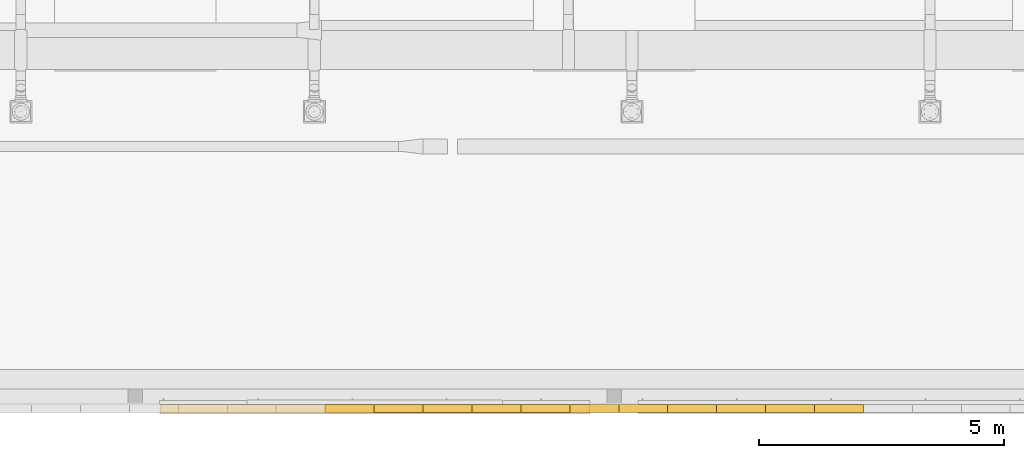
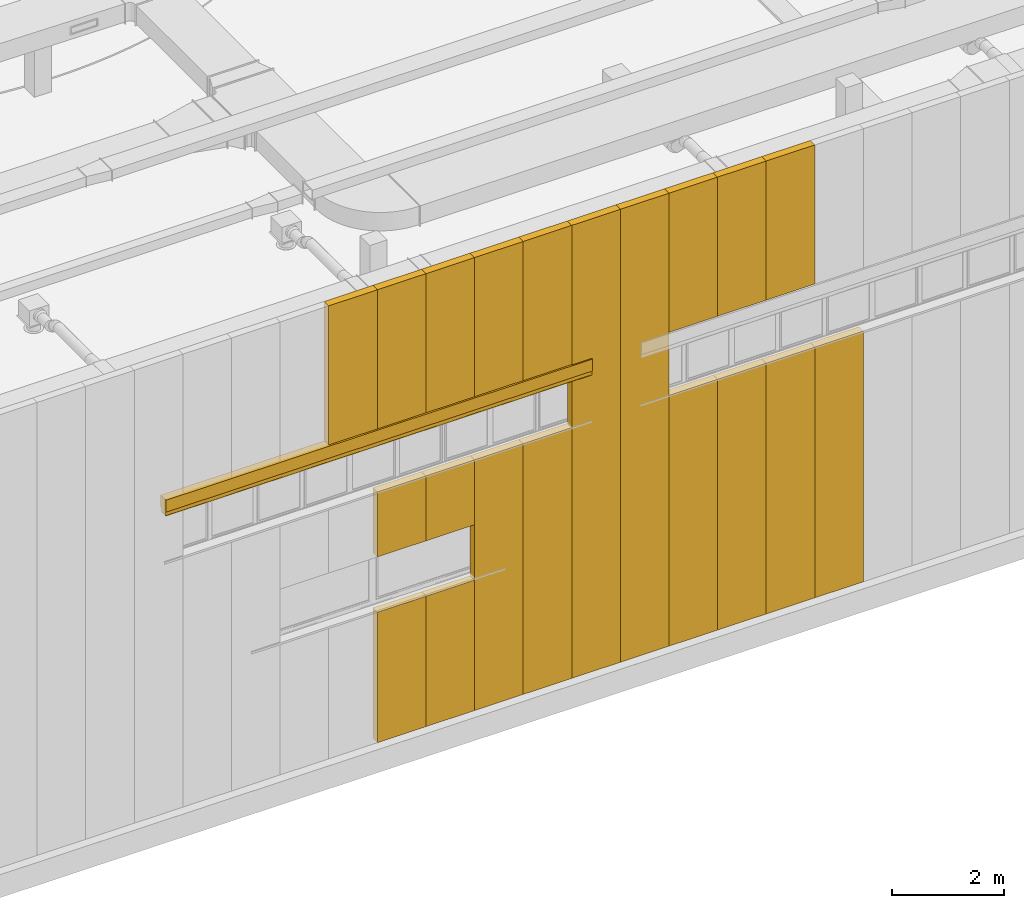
# One storey, part 217 of 302: 20 curtain walls, 1 window, 1 element without a shape of its own.
"""IFC2X3 building model written with IfcOpenShell, lengths in metres."""

from ifc_helpers import new_model, entity, si_unit, converted_unit, derived_unit, direction, frame, frame_2d, origin, origin_2d_with_axis, place, context, subcontext, project, spatial, polyline, circle_curve, parameter, trimmed, segment, composite_curve, rectangle, outline, extrude, source, transform, mapped, material, material_list, layer, layer_set, layer_usage, type_object, type_shapes, element, aggregate, save


model = new_model("IFC2X3")

# Units and contexts
model_context = context("Model", 3, precision=1e-05, world=origin(), true_north=direction((6.12303176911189e-17, 1.0)))
body_context = subcontext(model_context, "Body", "Model", "MODEL_VIEW")
ifc_project = project(units=[si_unit("LENGTHUNIT", "METRE"), si_unit("AREAUNIT", "SQUARE_METRE"), si_unit("VOLUMEUNIT", "CUBIC_METRE"), converted_unit("PLANEANGLEUNIT", "DEGREE", entity("IfcRatioMeasure", 0.0174532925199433), si_unit("PLANEANGLEUNIT", "RADIAN"), dimensions=[0, 0, 0, 0, 0, 0, 0]), si_unit("MASSUNIT", "GRAM", prefix="KILO"), derived_unit("MASSDENSITYUNIT", [(si_unit("MASSUNIT", "GRAM", prefix="KILO"), 1), (si_unit("LENGTHUNIT", "METRE"), -3)]), derived_unit("MOMENTOFINERTIAUNIT", [(si_unit("LENGTHUNIT", "METRE"), 4)]), si_unit("TIMEUNIT", "SECOND"), si_unit("FREQUENCYUNIT", "HERTZ"), si_unit("THERMODYNAMICTEMPERATUREUNIT", "DEGREE_CELSIUS"), derived_unit("THERMALTRANSMITTANCEUNIT", [(si_unit("MASSUNIT", "GRAM", prefix="KILO"), 1), (si_unit("THERMODYNAMICTEMPERATUREUNIT", "KELVIN"), -1), (si_unit("TIMEUNIT", "SECOND"), -3)]), derived_unit("VOLUMETRICFLOWRATEUNIT", [(si_unit("LENGTHUNIT", "METRE"), 3), (si_unit("TIMEUNIT", "SECOND"), -1)]), si_unit("ELECTRICCURRENTUNIT", "AMPERE"), si_unit("ELECTRICVOLTAGEUNIT", "VOLT"), si_unit("POWERUNIT", "WATT"), si_unit("FORCEUNIT", "NEWTON", prefix="KILO"), si_unit("ILLUMINANCEUNIT", "LUX"), si_unit("LUMINOUSFLUXUNIT", "LUMEN"), si_unit("LUMINOUSINTENSITYUNIT", "CANDELA"), derived_unit("USERDEFINED", [(si_unit("MASSUNIT", "GRAM", prefix="KILO"), -1), (si_unit("LENGTHUNIT", "METRE"), -2), (si_unit("TIMEUNIT", "SECOND"), 3), (si_unit("LUMINOUSFLUXUNIT", "LUMEN"), 1)]), derived_unit("LINEARVELOCITYUNIT", [(si_unit("LENGTHUNIT", "METRE"), 1), (si_unit("TIMEUNIT", "SECOND"), -1)]), si_unit("PRESSUREUNIT", "PASCAL"), derived_unit("USERDEFINED", [(si_unit("LENGTHUNIT", "METRE"), -2), (si_unit("MASSUNIT", "GRAM", prefix="KILO"), 1), (si_unit("TIMEUNIT", "SECOND"), -2)]), derived_unit("LINEARFORCEUNIT", [(si_unit("MASSUNIT", "GRAM", prefix="KILO"), 1), (si_unit("LENGTHUNIT", "METRE"), 1), (si_unit("TIMEUNIT", "SECOND"), -2), (si_unit("LENGTHUNIT", "METRE"), -1)]), derived_unit("PLANARFORCEUNIT", [(si_unit("MASSUNIT", "GRAM", prefix="KILO"), 1), (si_unit("LENGTHUNIT", "METRE"), 1), (si_unit("TIMEUNIT", "SECOND"), -2), (si_unit("LENGTHUNIT", "METRE"), -2)])], contexts=[model_context])

# Site, building, storey
site_placement = place(None, origin())
site = spatial("IfcSite", under=ifc_project, at=site_placement, Name="Default", CompositionType="ELEMENT")
building_placement = place(site_placement, origin())
building = spatial("IfcBuilding", under=site, at=building_placement, CompositionType="ELEMENT")
storey_placement = place(building_placement, frame((0.0, 0.0, -1.3)))
storey = spatial("IfcBuildingStorey", under=building, at=storey_placement, Name="00_EG", CompositionType="ELEMENT", Elevation=-1.3)

# Curtain walls
curtain_wall_type_1 = type_object("IfcCurtainWallType", Name="Fassade:Sandwichpaneele 16cm", PredefinedType="NOTDEFINED")
curtain_wall_1_placement = place(storey_placement, frame((0.0, 0.0, 1.3)))
curtain_wall_1 = element("IfcCurtainWall", 1, at=curtain_wall_1_placement, inside=storey, type_object=curtain_wall_type_1, Name="Fassade:Sandwichpaneele 16cm", ObjectType="Fassade:Sandwichpaneele 16cm")
ifc_material_1 = material(Name="Prepainted_Steel-ArcelorMittal_Construction_HAIRULTRA-35-CORAL-4309-[RAL_3000]")
ifc_layer_1 = layer(ifc_material_1, 0.015)
ifc_material_2 = material(Name="ArcelorMittal-MineralWool")
ifc_layer_2 = layer(ifc_material_2, 0.13)
ifc_material_3 = material(Name="Prepainted_Steel-ArcelorMittal_Construction_INTÉRIEUR-12-WHITE-912")
ifc_layer_3 = layer(ifc_material_3, 0.015)
ifc_layer_set = layer_set([ifc_layer_1, ifc_layer_2, ifc_layer_3], Name="Fassade:Sandwichpaneele 16cm")
ifc_layer_usage_1 = layer_usage(ifc_layer_set, "AXIS2", "POSITIVE", -0.08)
curtain_wall_type_2 = type_object("IfcCurtainWallType", Name="Basiswand:Sandwichpaneele d = 16cm aussen", PredefinedType="NOTDEFINED", material=ifc_layer_set)
curtain_wall_2_placement = place(storey_placement, frame((-251.840111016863, 14.898088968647, 1.27)))
curtain_wall_2 = element("IfcCurtainWall", 2, at=curtain_wall_2_placement, type_object=curtain_wall_type_2, material=ifc_layer_usage_1, Name="Basiswand:Sandwichpaneele d = 16cm aussen", ObjectType="Basiswand:Sandwichpaneele d = 16cm aussen", context=body_context, shape_type="SweptSolid", body=[
    extrude(rectangle(XDim=1.00000000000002, YDim=0.159999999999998, at=frame_2d((0.500000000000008, 0.0), x_axis=(-1.0, 0.0))), origin(), (0.0, 0.0, 1.0), 2.83599999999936),
])
ifc_layer_usage_2 = layer_usage(ifc_layer_set, "AXIS2", "POSITIVE", -0.08)
curtain_wall_3_placement = place(storey_placement, frame((-250.840111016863, 14.898088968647, 1.27)))
curtain_wall_3 = element("IfcCurtainWall", 3, at=curtain_wall_3_placement, type_object=curtain_wall_type_2, material=ifc_layer_usage_2, Name="Basiswand:Sandwichpaneele d = 16cm aussen", ObjectType="Basiswand:Sandwichpaneele d = 16cm aussen", context=body_context, shape_type="SweptSolid", body=[
    extrude(rectangle(XDim=0.999999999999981, YDim=0.159999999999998, at=frame_2d((0.49999999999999, 0.0), x_axis=(-1.0, 0.0))), origin(), (0.0, 0.0, 1.0), 2.83599999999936),
])
ifc_layer_usage_3 = layer_usage(ifc_layer_set, "AXIS2", "POSITIVE", -0.08)
curtain_wall_4_placement = place(storey_placement, frame((-248.840111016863, 14.898088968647, 1.27)))
curtain_wall_4 = element("IfcCurtainWall", 4, at=curtain_wall_4_placement, type_object=curtain_wall_type_2, material=ifc_layer_usage_3, Name="Basiswand:Sandwichpaneele d = 16cm aussen", ObjectType="Basiswand:Sandwichpaneele d = 16cm aussen", context=body_context, shape_type="SweptSolid", body=[
    extrude(rectangle(XDim=0.999999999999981, YDim=0.159999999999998, at=frame_2d((0.49999999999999, 0.0), x_axis=(-1.0, 0.0))), origin(), (0.0, 0.0, 1.0), 5.44999999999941),
])
ifc_layer_usage_4 = layer_usage(ifc_layer_set, "AXIS2", "POSITIVE", -0.08)
curtain_wall_5_placement = place(storey_placement, frame((-246.840111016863, 14.898088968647, 1.27)))
curtain_wall_5 = element("IfcCurtainWall", 5, at=curtain_wall_5_placement, type_object=curtain_wall_type_2, material=ifc_layer_usage_4, Name="Basiswand:Sandwichpaneele d = 16cm aussen", ObjectType="Basiswand:Sandwichpaneele d = 16cm aussen", context=body_context, shape_type="SweptSolid", body=[
    extrude(rectangle(XDim=0.999999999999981, YDim=0.159999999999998, at=frame_2d((0.49999999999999, 0.0), x_axis=(-1.0, 0.0))), origin(), (0.0, 0.0, 1.0), 9.8509),
])
ifc_layer_usage_5 = layer_usage(ifc_layer_set, "AXIS2", "POSITIVE", -0.08)
curtain_wall_6_placement = place(storey_placement, frame((-245.840111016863, 14.898088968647, 1.27)))
curtain_wall_6 = element("IfcCurtainWall", 6, at=curtain_wall_6_placement, type_object=curtain_wall_type_2, material=ifc_layer_usage_5, Name="Basiswand:Sandwichpaneele d = 16cm aussen", ObjectType="Basiswand:Sandwichpaneele d = 16cm aussen", context=body_context, shape_type="SweptSolid", body=[
    extrude(rectangle(XDim=1.00000000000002, YDim=0.159999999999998, at=frame_2d((0.500000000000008, 0.0), x_axis=(-1.0, 0.0))), origin(), (0.0, 0.0, 1.0), 5.44999999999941),
])
ifc_layer_usage_6 = layer_usage(ifc_layer_set, "AXIS2", "POSITIVE", -0.08)
curtain_wall_7_placement = place(storey_placement, frame((-244.840111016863, 14.898088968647, 1.27)))
curtain_wall_7 = element("IfcCurtainWall", 7, at=curtain_wall_7_placement, type_object=curtain_wall_type_2, material=ifc_layer_usage_6, Name="Basiswand:Sandwichpaneele d = 16cm aussen", ObjectType="Basiswand:Sandwichpaneele d = 16cm aussen", context=body_context, shape_type="SweptSolid", body=[
    extrude(rectangle(XDim=0.999999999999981, YDim=0.159999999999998, at=frame_2d((0.49999999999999, 0.0), x_axis=(-1.0, 0.0))), origin(), (0.0, 0.0, 1.0), 5.44999999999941),
])
ifc_layer_usage_7 = layer_usage(ifc_layer_set, "AXIS2", "POSITIVE", -0.08)
curtain_wall_8_placement = place(storey_placement, frame((-243.840111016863, 14.898088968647, 1.27)))
curtain_wall_8 = element("IfcCurtainWall", 8, at=curtain_wall_8_placement, type_object=curtain_wall_type_2, material=ifc_layer_usage_7, Name="Basiswand:Sandwichpaneele d = 16cm aussen", ObjectType="Basiswand:Sandwichpaneele d = 16cm aussen", context=body_context, shape_type="SweptSolid", body=[
    extrude(rectangle(XDim=1.00000000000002, YDim=0.159999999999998, at=frame_2d((0.500000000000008, 0.0), x_axis=(-1.0, 0.0))), origin(), (0.0, 0.0, 1.0), 5.44999999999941),
])
ifc_layer_usage_8 = layer_usage(ifc_layer_set, "AXIS2", "POSITIVE", -0.08)
curtain_wall_9_placement = place(storey_placement, frame((-242.840111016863, 14.898088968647, 1.27)))
curtain_wall_9 = element("IfcCurtainWall", 9, at=curtain_wall_9_placement, type_object=curtain_wall_type_2, material=ifc_layer_usage_8, Name="Basiswand:Sandwichpaneele d = 16cm aussen", ObjectType="Basiswand:Sandwichpaneele d = 16cm aussen", context=body_context, shape_type="SweptSolid", body=[
    extrude(rectangle(XDim=0.999999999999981, YDim=0.159999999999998, at=frame_2d((0.49999999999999, 0.0), x_axis=(-1.0, 0.0))), origin(), (0.0, 0.0, 1.0), 5.44999999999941),
])
ifc_layer_usage_9 = layer_usage(ifc_layer_set, "AXIS2", "POSITIVE", -0.08)
curtain_wall_10_placement = place(storey_placement, frame((-251.840111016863, 14.898088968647, 5.31000000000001)))
curtain_wall_10 = element("IfcCurtainWall", 10, at=curtain_wall_10_placement, type_object=curtain_wall_type_2, material=ifc_layer_usage_9, Name="Basiswand:Sandwichpaneele d = 16cm aussen", ObjectType="Basiswand:Sandwichpaneele d = 16cm aussen", context=body_context, shape_type="SweptSolid", body=[
    extrude(rectangle(XDim=1.00000000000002, YDim=0.159999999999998, at=frame_2d((0.500000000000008, 0.0), x_axis=(-1.0, 0.0))), origin(), (0.0, 0.0, 1.0), 1.40999999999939),
])
ifc_layer_usage_10 = layer_usage(ifc_layer_set, "AXIS2", "POSITIVE", -0.08)
curtain_wall_11_placement = place(storey_placement, frame((-250.840111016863, 14.898088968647, 5.31000000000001)))
curtain_wall_11 = element("IfcCurtainWall", 11, at=curtain_wall_11_placement, type_object=curtain_wall_type_2, material=ifc_layer_usage_10, Name="Basiswand:Sandwichpaneele d = 16cm aussen", ObjectType="Basiswand:Sandwichpaneele d = 16cm aussen", context=body_context, shape_type="SweptSolid", body=[
    extrude(rectangle(XDim=0.999999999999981, YDim=0.159999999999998, at=frame_2d((0.49999999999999, 0.0), x_axis=(-1.0, 0.0))), origin(), (0.0, 0.0, 1.0), 1.40999999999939),
])
ifc_layer_usage_11 = layer_usage(ifc_layer_set, "AXIS2", "POSITIVE", -0.08)
curtain_wall_12_placement = place(storey_placement, frame((-249.840111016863, 14.898088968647, 1.27)))
curtain_wall_12 = element("IfcCurtainWall", 12, at=curtain_wall_12_placement, type_object=curtain_wall_type_2, material=ifc_layer_usage_11, Name="Basiswand:Sandwichpaneele d = 16cm aussen", ObjectType="Basiswand:Sandwichpaneele d = 16cm aussen", context=body_context, shape_type="SweptSolid", body=[
    extrude(rectangle(XDim=1.00000000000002, YDim=0.159999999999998, at=frame_2d((0.500000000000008, 0.0), x_axis=(-1.0, 0.0))), origin(), (0.0, 0.0, 1.0), 5.44999999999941),
])
ifc_layer_usage_12 = layer_usage(ifc_layer_set, "AXIS2", "POSITIVE", -0.08)
curtain_wall_13_placement = place(storey_placement, frame((-252.840111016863, 14.898088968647, 8.09499999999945)))
curtain_wall_13 = element("IfcCurtainWall", 13, at=curtain_wall_13_placement, type_object=curtain_wall_type_2, material=ifc_layer_usage_12, Name="Basiswand:Sandwichpaneele d = 16cm aussen", ObjectType="Basiswand:Sandwichpaneele d = 16cm aussen", context=body_context, shape_type="SweptSolid", body=[
    extrude(rectangle(XDim=0.999999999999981, YDim=0.159999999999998, at=frame_2d((0.49999999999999, 0.0), x_axis=(-1.0, 0.0))), origin(), (0.0, 0.0, 1.0), 3.02590000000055),
])
ifc_layer_usage_13 = layer_usage(ifc_layer_set, "AXIS2", "POSITIVE", -0.08)
curtain_wall_14_placement = place(storey_placement, frame((-251.840111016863, 14.898088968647, 8.09499999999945)))
curtain_wall_14 = element("IfcCurtainWall", 14, at=curtain_wall_14_placement, type_object=curtain_wall_type_2, material=ifc_layer_usage_13, Name="Basiswand:Sandwichpaneele d = 16cm aussen", ObjectType="Basiswand:Sandwichpaneele d = 16cm aussen", context=body_context, shape_type="SweptSolid", body=[
    extrude(rectangle(XDim=1.00000000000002, YDim=0.159999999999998, at=frame_2d((0.500000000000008, 0.0), x_axis=(-1.0, 0.0))), origin(), (0.0, 0.0, 1.0), 3.02590000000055),
])
ifc_layer_usage_14 = layer_usage(ifc_layer_set, "AXIS2", "POSITIVE", -0.08)
curtain_wall_15_placement = place(storey_placement, frame((-250.840111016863, 14.898088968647, 8.09499999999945)))
curtain_wall_15 = element("IfcCurtainWall", 15, at=curtain_wall_15_placement, type_object=curtain_wall_type_2, material=ifc_layer_usage_14, Name="Basiswand:Sandwichpaneele d = 16cm aussen", ObjectType="Basiswand:Sandwichpaneele d = 16cm aussen", context=body_context, shape_type="SweptSolid", body=[
    extrude(rectangle(XDim=0.999999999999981, YDim=0.159999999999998, at=frame_2d((0.49999999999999, 0.0), x_axis=(-1.0, 0.0))), origin(), (0.0, 0.0, 1.0), 3.02590000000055),
])
ifc_layer_usage_15 = layer_usage(ifc_layer_set, "AXIS2", "POSITIVE", -0.08)
curtain_wall_16_placement = place(storey_placement, frame((-249.840111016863, 14.898088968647, 8.09499999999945)))
curtain_wall_16 = element("IfcCurtainWall", 16, at=curtain_wall_16_placement, type_object=curtain_wall_type_2, material=ifc_layer_usage_15, Name="Basiswand:Sandwichpaneele d = 16cm aussen", ObjectType="Basiswand:Sandwichpaneele d = 16cm aussen", context=body_context, shape_type="SweptSolid", body=[
    extrude(rectangle(XDim=1.00000000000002, YDim=0.159999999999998, at=frame_2d((0.500000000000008, 0.0), x_axis=(-1.0, 0.0))), origin(), (0.0, 0.0, 1.0), 3.02590000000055),
])
ifc_layer_usage_16 = layer_usage(ifc_layer_set, "AXIS2", "POSITIVE", -0.08)
curtain_wall_17_placement = place(storey_placement, frame((-248.840111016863, 14.898088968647, 8.09499999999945)))
curtain_wall_17 = element("IfcCurtainWall", 17, at=curtain_wall_17_placement, type_object=curtain_wall_type_2, material=ifc_layer_usage_16, Name="Basiswand:Sandwichpaneele d = 16cm aussen", ObjectType="Basiswand:Sandwichpaneele d = 16cm aussen", context=body_context, shape_type="SweptSolid", body=[
    extrude(rectangle(XDim=0.999999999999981, YDim=0.159999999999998, at=frame_2d((0.49999999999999, 0.0), x_axis=(-1.0, 0.0))), origin(), (0.0, 0.0, 1.0), 3.02590000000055),
])
ifc_layer_usage_17 = layer_usage(ifc_layer_set, "AXIS2", "POSITIVE", -0.08)
curtain_wall_18_placement = place(storey_placement, frame((-247.840111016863, 14.898088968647, 1.27)))
curtain_wall_18 = element("IfcCurtainWall", 18, at=curtain_wall_18_placement, type_object=curtain_wall_type_2, material=ifc_layer_usage_17, Name="Basiswand:Sandwichpaneele d = 16cm aussen", ObjectType="Basiswand:Sandwichpaneele d = 16cm aussen", context=body_context, shape_type="SweptSolid", body=[
    extrude(rectangle(XDim=1.00000000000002, YDim=0.159999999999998, at=frame_2d((0.500000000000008, 0.0), x_axis=(-1.0, 0.0))), origin(), (0.0, 0.0, 1.0), 9.8509),
])
ifc_layer_usage_18 = layer_usage(ifc_layer_set, "AXIS2", "POSITIVE", -0.08)
curtain_wall_19_placement = place(storey_placement, frame((-245.840111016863, 14.898088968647, 8.09499999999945)))
curtain_wall_19 = element("IfcCurtainWall", 19, at=curtain_wall_19_placement, type_object=curtain_wall_type_2, material=ifc_layer_usage_18, Name="Basiswand:Sandwichpaneele d = 16cm aussen", ObjectType="Basiswand:Sandwichpaneele d = 16cm aussen", context=body_context, shape_type="SweptSolid", body=[
    extrude(rectangle(XDim=1.00000000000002, YDim=0.159999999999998, at=frame_2d((0.500000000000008, 0.0), x_axis=(-1.0, 0.0))), origin(), (0.0, 0.0, 1.0), 3.02590000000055),
])
ifc_layer_usage_19 = layer_usage(ifc_layer_set, "AXIS2", "POSITIVE", -0.08)
curtain_wall_20_placement = place(storey_placement, frame((-244.840111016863, 14.898088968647, 8.09499999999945)))
curtain_wall_20 = element("IfcCurtainWall", 20, at=curtain_wall_20_placement, type_object=curtain_wall_type_2, material=ifc_layer_usage_19, Name="Basiswand:Sandwichpaneele d = 16cm aussen", ObjectType="Basiswand:Sandwichpaneele d = 16cm aussen", context=body_context, shape_type="SweptSolid", body=[
    extrude(rectangle(XDim=0.999999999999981, YDim=0.159999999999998, at=frame_2d((0.49999999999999, 0.0), x_axis=(-1.0, 0.0))), origin(), (0.0, 0.0, 1.0), 3.02590000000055),
])
ifc_layer_usage_20 = layer_usage(ifc_layer_set, "AXIS2", "POSITIVE", -0.08)
curtain_wall_21_placement = place(storey_placement, frame((-243.840111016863, 14.898088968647, 8.09499999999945)))
curtain_wall_21 = element("IfcCurtainWall", 21, at=curtain_wall_21_placement, type_object=curtain_wall_type_2, material=ifc_layer_usage_20, Name="Basiswand:Sandwichpaneele d = 16cm aussen", ObjectType="Basiswand:Sandwichpaneele d = 16cm aussen", context=body_context, shape_type="SweptSolid", body=[
    extrude(rectangle(XDim=1.00000000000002, YDim=0.159999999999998, at=frame_2d((0.500000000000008, 0.0), x_axis=(-1.0, 0.0))), origin(), (0.0, 0.0, 1.0), 3.02590000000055),
])
aggregate(curtain_wall_1, [curtain_wall_2, curtain_wall_3, curtain_wall_4, curtain_wall_5, curtain_wall_6, curtain_wall_7, curtain_wall_8, curtain_wall_9, curtain_wall_10, curtain_wall_11, curtain_wall_12, curtain_wall_13, curtain_wall_14, curtain_wall_15, curtain_wall_16, curtain_wall_17, curtain_wall_18, curtain_wall_19, curtain_wall_20, curtain_wall_21])

# Window
ifc_material_4 = material(Name="Metall - Edelstahl satiniert")
ifc_material_5 = material(Name="Metall - Raffstore vertikale Stellung")
ifc_material_6 = material(Name="<Unnamed>")
ifc_material_list_1 = material_list([ifc_material_4, ifc_material_5, ifc_material_6])
ifc_material_list_2 = material_list([ifc_material_4, ifc_material_4, ifc_material_5, ifc_material_6, ifc_material_5, ifc_material_5, ifc_material_4])
window_style = type_object("IfcWindowStyle", Name="Blende Raffstore:Raffstore geschlossen, Stellung senkrecht", ConstructionType="NOTDEFINED", OperationType="NOTDEFINED", ParameterTakesPrecedence=False, Sizeable=False, material=ifc_material_list_2)
shared_shape = source(origin(), body_context, "Body", "SweptSolid", [
    extrude(rectangle(XDim=0.00500000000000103, YDim=0.189999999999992, at=origin_2d_with_axis()), frame((8.7775, 0.0949999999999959, 0.0), z_axis=(0.0, 0.0, 1.0), x_axis=(-1.0, 0.0, 0.0)), (0.0, 0.0, 1.0), 0.259999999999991),
    extrude(rectangle(XDim=0.00500000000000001, YDim=0.190000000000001, at=origin_2d_with_axis()), frame((0.00250000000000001, 0.0950000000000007, 0.0), z_axis=(0.0, 0.0, 1.0), x_axis=(-1.0, 0.0, 0.0)), (0.0, 0.0, 1.0), 0.260000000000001),
    extrude(outline(composite_curve([segment(polyline([(-0.122576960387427, -0.0750000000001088), (0.122576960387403, -0.0750000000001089)]), True, "CONTINUOUS"), segment(trimmed(circle_curve(frame_2d((0.424460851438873, 0.0), x_axis=(0.0, 1.0)), 0.311060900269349), [parameter(76.0479171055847)], [parameter(103.952082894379)], True, "PARAMETER"), False, "CONTINUOUS"), segment(polyline([(0.122576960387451, 0.0750000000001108), (-0.122576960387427, 0.0750000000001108)]), True, "CONTINUOUS"), segment(polyline([(-0.122576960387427, 0.0750000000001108), (-0.122576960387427, -0.0750000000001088)]), True, "CONTINUOUS")], self_intersect=False)), frame((0.005, 0.0950000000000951, 0.0324230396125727), z_axis=(1.0, 0.0, 0.0), x_axis=(0.0, 0.0, -1.0)), (0.0, 0.0, 1.0), 8.77),
    extrude(rectangle(XDim=8.77, YDim=0.0799999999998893, at=frame_2d((0.0, 1.73472347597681e-17), x_axis=(1.0, 0.0))), frame((4.39, 0.0950000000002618, 0.175), z_axis=(0.0, 0.0, 1.0), x_axis=(-1.0, 0.0, 0.0)), (0.0, 0.0, 1.0), 0.0799999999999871),
    extrude(outline(composite_curve([segment(trimmed(circle_curve(frame_2d((-0.28429694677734, 0.098190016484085), x_axis=(0.326455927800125, 0.945212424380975)), 0.309068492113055), [parameter(255.956135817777)], [parameter(284.043864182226)], True, "PARAMETER"), False, "CONTINUOUS"), segment(polyline([(-0.0253776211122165, -0.070582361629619), (-0.023803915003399, -0.0718166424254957)]), True, "CONTINUOUS"), segment(trimmed(circle_curve(frame_2d((-0.28429694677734, 0.098190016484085), x_axis=(0.326455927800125, 0.945212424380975)), 0.311060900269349), [parameter(255.923964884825)], [parameter(284.076035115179)], True, "PARAMETER"), True, "CONTINUOUS"), segment(polyline([(0.025590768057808, 0.0711995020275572), (0.0235907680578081, 0.0711995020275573)]), True, "CONTINUOUS")], self_intersect=False)), frame((0.005, 0.0950000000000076, -0.0990547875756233), z_axis=(-1.0, 0.0, 0.0), x_axis=(0.0, 0.326455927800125, 0.945212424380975)), (0.0, 0.0, -1.0), 8.76999999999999),
    extrude(outline(composite_curve([segment(trimmed(circle_curve(frame_2d((-0.284296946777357, 0.0981900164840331), x_axis=(0.326455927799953, 0.945212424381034)), 0.309068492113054), [parameter(255.956135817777)], [parameter(284.043864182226)], True, "PARAMETER"), False, "CONTINUOUS"), segment(polyline([(-0.0253776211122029, -0.0705823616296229), (-0.0238039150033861, -0.0718166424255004)]), True, "CONTINUOUS"), segment(trimmed(circle_curve(frame_2d((-0.284296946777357, 0.0981900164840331), x_axis=(0.326455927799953, 0.945212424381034)), 0.311060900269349), [parameter(255.923964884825)], [parameter(284.076035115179)], True, "PARAMETER"), True, "CONTINUOUS"), segment(polyline([(0.0255907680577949, 0.0711995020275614), (0.023590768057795, 0.0711995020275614)]), True, "CONTINUOUS")], self_intersect=False)), frame((0.005, 0.0950000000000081, -0.0912620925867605), z_axis=(-1.0, 0.0, 0.0), x_axis=(0.0, 0.326455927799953, 0.945212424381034)), (0.0, 0.0, -1.0), 8.76999999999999),
    extrude(outline(polyline([(-0.167154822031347, -0.095000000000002), (0.0928451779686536, -0.095000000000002), (0.077845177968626, -0.0799999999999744), (0.077845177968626, -0.0870710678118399), (0.0807741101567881, -0.090000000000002), (-0.162154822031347, -0.0900000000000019), (-0.162154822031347, 0.0899999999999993), (0.0807741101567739, 0.0899999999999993), (0.0778451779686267, 0.0870710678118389), (0.0778451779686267, 0.0799999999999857), (0.0928451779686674, 0.0949999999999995), (-0.167154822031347, 0.0949999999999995), (-0.167154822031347, -0.095000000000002)])), frame((0.005, 0.095000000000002, 0.0928451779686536), z_axis=(1.0, 0.0, 0.0), x_axis=(0.0, 0.0, -1.0)), (0.0, 0.0, 1.0), 8.77),
])
type_shapes(window_style, [shared_shape])
window_placement = place(storey_placement, frame((-247.423861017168, 14.983088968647, 7.82500000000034), z_axis=(0.0, 0.0, 1.0), x_axis=(-1.0, 0.0, 0.0)))
element("IfcWindow", 22, at=window_placement, inside=storey, type_object=window_style, material=ifc_material_list_1, Name="Blende Raffstore:Raffstore geschlossen, Stellung senkrecht", ObjectType="Blende Raffstore:Raffstore geschlossen, Stellung senkrecht", OverallHeight=0.360000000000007, OverallWidth=8.78, context=body_context, shape_type="MappedRepresentation", body=[
    mapped(shared_shape, transform((0.0, 0.0, 0.0), scale=1.0)),
])

save(model, "model.ifc")
